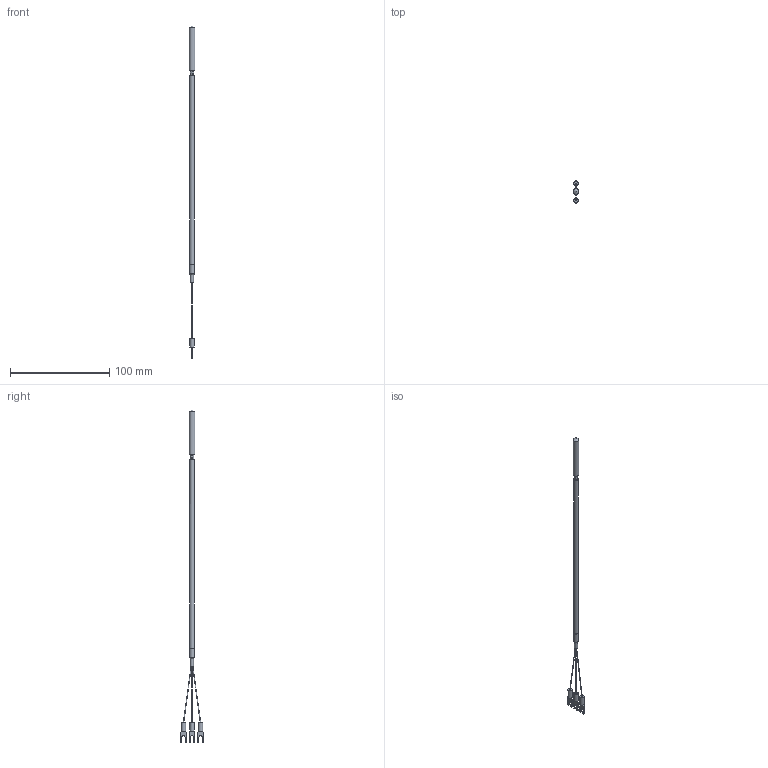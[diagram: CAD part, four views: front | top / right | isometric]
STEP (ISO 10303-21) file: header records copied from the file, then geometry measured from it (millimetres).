
FILE_DESCRIPTION (( 'STEP AP203' ), '1' );
FILE_NAME ('YIR102-6(0).STEP', '2024-08-28T04:42:48', ( '' ), ( '' ), 'SwSTEP 2.0', 'SolidWorks 2021', '' );
FILE_SCHEMA (( 'CONFIG_CONTROL_DESIGN' ));
Length unit declared in the file: millimetre
Products named in the file (1): YIR102-6(0)
Bounding box: 6 x 22.96 x 334.72 mm (x, y, z)
Volume: 5550 mm3; surface area: 5130.8 mm2
Topology: 1 solids, 1 shells, 86 faces, 206 edges, 132 vertices
Faces by surface type: plane 51, cylinder 29, cone 4, bspline 2
Full cylindrical faces by diameter (mm): 0.5 x1, 3.16 x1, 4.5 x3, 4.8 x1, 5 x1, 6 x1
Entity records: 2489 total; most frequent: CARTESIAN_POINT 431, DIRECTION 428, ORIENTED_EDGE 378, EDGE_CURVE 189, AXIS2_PLACEMENT_3D 154, VERTEX_POINT 129, LINE 120, VECTOR 120
